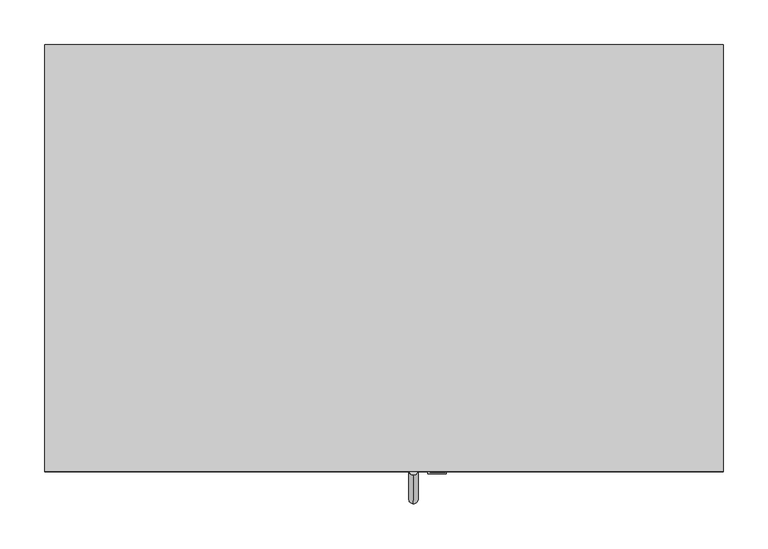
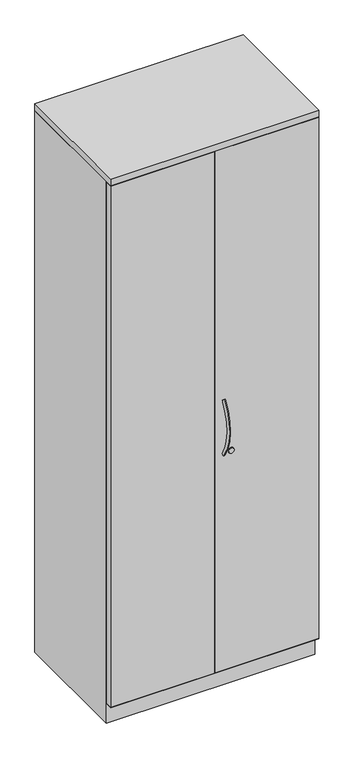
"""IFC4 building model written with IfcOpenShell, lengths in millimetres: furniture geometry, Steelcase - Universal Storage - Cabinet - Storage - 66H-84H - Proud Steel : 84H x 18D x 30W."""

from ifc_helpers import new_model, si_unit, point, frame, frame_2d, origin, place, context, project, spatial, polyline, circle_curve, ellipse_curve, trimmed, segment, composite_curve, outline, extrude, faceted_brep, source, transform, mapped, element, save
from ifc_brep_helpers import plane_surface, revolved_surface, advanced_brep


def furniture_1271d820(model_context):
    return source(origin(), model_context, "Body", "SolidModel", [
        extrude(outline(polyline([(762.0, 0.0), (762.0, -479.552), (0.0, -479.552), (0.0, 0.0), (762.0, 0.0)])), frame((0.0, 0.0, 2095.5), z_axis=(0.0, 0.0, 1.0), x_axis=(1.0, 0.0, 0.0)), (0.0, 0.0, 1.0), 25.4),
        extrude(outline(polyline([(0.0, -479.552), (0.0, -454.1528418), (378.46, -454.1528418), (378.46, -479.552), (0.0, -479.552)])), frame((0.0, 0.0, 77.724), z_axis=(0.0, 0.0, 1.0), x_axis=(1.0, 0.0, 0.0)), (0.0, 0.0, 1.0), 2016.252),
        extrude(outline(polyline([(762.0, -454.1528418), (762.0, -479.552), (383.54, -479.552), (383.54, -454.1528418), (762.0, -454.1528418)])), frame((0.0, 0.0, 77.724), z_axis=(0.0, 0.0, 1.0), x_axis=(1.0, 0.0, 0.0)), (0.0, 0.0, 1.0), 2016.252),
        extrude(outline(composite_curve([segment(trimmed(circle_curve(frame_2d((917.702, 440.5418131)), 10.16), [point((917.702, 450.7018131))], [point((917.702, 430.3818131))], False, "CARTESIAN"), True, "CONTINUOUS"), segment(trimmed(circle_curve(frame_2d((917.702, 440.5418131)), 10.16), [point((917.702, 430.3818131))], [point((917.702, 450.7018131))], False, "CARTESIAN"), True, "CONTINUOUS")], self_intersect=False)), frame((0.0, -481.965031, 0.0), z_axis=(0.0, 1.0, 0.0), x_axis=(0.0, 0.0, 1.0)), (0.0, 0.0, 1.0), 2.413031),
        advanced_brep(
        [(414.0783765, -474.9744318, 1119.7196018), (414.0783765, -483.5741633, 1125.3900503), (414.0783765, -472.5471581, 911.9931915), (414.0783765, -481.0120418, 906.1233437)],
        [
            (0, 1, circle_curve(frame((414.0783765, -479.2742976, 1122.5548261), z_axis=(0.0, 0.5504787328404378, 0.83484918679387), x_axis=(0.0, -0.83484918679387, 0.5504787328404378)), 5.1504701)),
            (1, 0, circle_curve(frame((414.0783765, -479.2742976, 1122.5548261), z_axis=(0.0, 0.5504787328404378, 0.83484918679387), x_axis=(0.0, -0.83484918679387, 0.5504787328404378)), 5.1504701)),
            (2, 3, circle_curve(frame((414.0783765, -476.7796, 909.0582676), z_axis=(0.0, 0.5698361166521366, -0.8217583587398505), x_axis=(0.0, -0.8217583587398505, -0.5698361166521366)), 5.1504701)),
            (3, 2, circle_curve(frame((414.0783765, -476.7796, 909.0582676), z_axis=(0.0, 0.5698361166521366, -0.8217583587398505), x_axis=(0.0, -0.8217583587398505, -0.5698361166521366)), 5.1504701)),
            (3, 1, circle_curve(frame((414.0783765, -320.178461, 1017.6509992), z_axis=(-1.0, 0.0, 0.0), x_axis=(0.0, -0.83484918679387, 0.5504787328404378)), 195.7188256)),
            (0, 2, circle_curve(frame((414.0783765, -320.178461, 1017.6509992), z_axis=(1.0, 0.0, 0.0), x_axis=(0.0, -0.83484918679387, 0.5504787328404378)), 185.4178854)),
        ],
        [
            plane_surface(frame((414.0783765, -479.2742976, 1122.5548261), z_axis=(0.0, 0.5504787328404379, 0.83484918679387), x_axis=(-1.0, 0.0, 0.0))),
            plane_surface(frame((414.0783765, -476.7796, 909.0582676), z_axis=(0.0, 0.5698361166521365, -0.8217583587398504), x_axis=(-1.0, 0.0, 0.0))),
            revolved_surface(trimmed(ellipse_curve(frame((414.0783765, -479.2742976, 1122.5548261), z_axis=(0.0, 0.5504787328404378, 0.83484918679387), x_axis=(0.0, -0.83484918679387, 0.5504787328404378)), 5.1504701, 5.1504701), [point((414.0783765, -474.9744318, 1119.7196018))], [point((414.0783765, -483.5741633, 1125.3900503))], True, "CARTESIAN"), (414.0783765, -320.178461, 1017.6509992), (1.0, 0.0, 0.0)),
            revolved_surface(trimmed(ellipse_curve(frame((414.0783765, -479.2742976, 1122.5548261), z_axis=(0.0, 0.5504787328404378, 0.83484918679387), x_axis=(0.0, -0.83484918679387, 0.5504787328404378)), 5.1504701, 5.1504701), [point((414.0783765, -483.5741633, 1125.3900503))], [point((414.0783765, -474.9744318, 1119.7196018))], True, "CARTESIAN"), (414.0783765, -320.178461, 1017.6509992), (1.0, 0.0, 0.0)),
        ],
        [
            (0, [[1, 2]]),
            (1, [[3, 4]]),
            (2, [[5, -1, 6, -4]]),
            (3, [[-6, -2, -5, -3]]),
        ],
    ),
        extrude(outline(composite_curve([segment(trimmed(circle_curve(frame_2d((919.3669832, 440.8109835)), 9.7167829), [point((919.3669832, 450.5277664))], [point((919.3669832, 431.0942006))], False, "CARTESIAN"), True, "CONTINUOUS"), segment(trimmed(circle_curve(frame_2d((919.3669832, 440.8109835)), 9.7167829), [point((919.3669832, 431.0942006))], [point((919.3669832, 450.5277664))], False, "CARTESIAN"), True, "CONTINUOUS")], self_intersect=False)), frame((0.0, -480.2215275, 0.0), z_axis=(0.0, 1.0, 0.0), x_axis=(0.0, 0.0, 1.0)), (0.0, 0.0, 1.0), 0.6695275),
        faceted_brep([(762.0, 0.0, 0.0), (762.0, -452.6288432, 0.0), (0.0, -452.6288432, 0.0), (0.0, 0.0, 0.0), (0.0, 0.0, 2093.976), (762.0, 0.0, 2093.976), (0.0, -452.6288432, 76.2), (0.0, -479.552, 76.2), (0.0, -479.552, 77.724), (0.0, -452.6288432, 77.724), (0.0, -452.6288432, 2093.976), (762.0, -452.6288432, 76.2), (762.0, -452.6288432, 2093.976), (762.0, -452.6288432, 77.724), (762.0, -479.4258418, 77.724), (762.0, -479.552, 76.2), (736.6000242, -25.4000008, 2093.976), (736.6000242, -452.6288432, 2093.976), (25.3999758, -452.6288432, 2093.976), (25.3999758, -25.4000008, 2093.976), (736.6000242, -25.4000008, 77.724), (736.6000242, -452.6288432, 77.724), (25.3999758, -452.6288432, 77.724), (25.3999758, -25.4000008, 77.724), (4.6981334, -454.1528418, 77.724), (736.6000242, -454.1528418, 77.724)], [[[0, 1, 2, 3]], [[0, 3, 4, 5]], [[4, 3, 2, 6, 7, 8, 9, 10]], [[2, 1, 11, 6]], [[1, 0, 5, 12, 13, 14, 15, 11]], [[16, 17, 12, 5, 4, 10, 18, 19]], [[17, 16, 20, 21]], [[12, 17, 21, 13]], [[18, 10, 9, 22]], [[19, 18, 22, 23]], [[16, 19, 23, 20]], [[8, 24, 25, 14, 13, 21, 20, 23, 22, 9]], [[15, 7, 6, 11]], [[24, 8, 7]], [[25, 24, 7, 15]], [[14, 25, 15]]]),
    ])


if __name__ == "__main__":
    model = new_model("IFC4")
    model_context = context("Model", 3, world=origin())
    ifc_project = project(units=[si_unit("LENGTHUNIT", "METRE", prefix="MILLI")], contexts=[model_context])
    site = spatial("IfcSite", under=ifc_project)
    building = spatial("IfcBuilding", under=site)
    placement = place(None, origin())
    furniture_shape = furniture_1271d820(model_context)
    element("IfcFurniture", 1, ObjectType="Steelcase - Universal Storage - Cabinet - Storage - 66H-84H - Proud Steel : 84H x 18D x 30W", at=placement, inside=building, context=model_context, shape_type="MappedRepresentation", body=[
        mapped(furniture_shape, transform((0.0, 0.0, 0.0), x_axis=(1.0, 0.0, 0.0), y_axis=(0.0, 1.0, 0.0), z_axis=(0.0, 0.0, 1.0))),
    ])
    save(model, "model.ifc")
